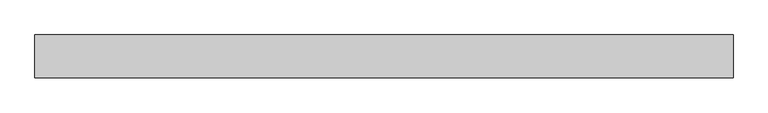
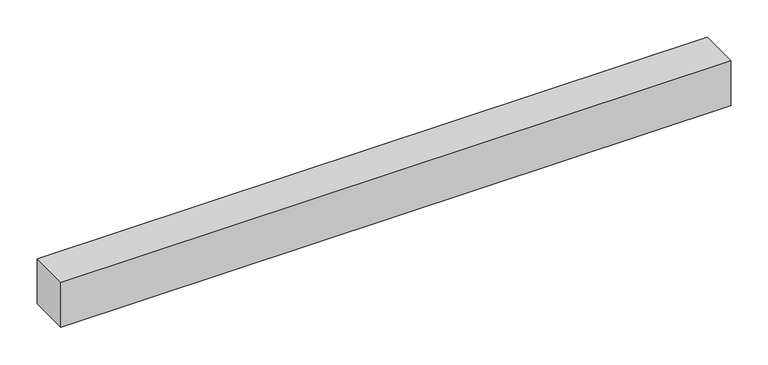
"""IFC4 building model written with IfcOpenShell, lengths in millimetres: light fixture geometry, LF_ОП_ТЛ : ДСП52_34_171_34Вт."""

from ifc_helpers import new_model, si_unit, frame, origin, place, context, project, spatial, polyline, outline, extrude, source, transform, mapped, element, save


def light_fixture_a1cd45f6(model_context):
    return source(origin(), model_context, "Body", "SweptSolid", [
        extrude(outline(polyline([(520.0, 32.0), (520.0, -32.0), (-520.0, -32.0), (-520.0, 32.0), (520.0, 32.0)])), frame((0.0, 0.0, -74.0), z_axis=(0.0, 0.0, 1.0), x_axis=(1.0, 0.0, 0.0)), (0.0, 0.0, 1.0), 74.0),
        extrude(outline(polyline([(510.0, 22.0), (510.0, -22.0), (-510.0, -22.0), (-510.0, 22.0), (510.0, 22.0)])), frame((0.0, 0.0, -74.7), z_axis=(0.0, 0.0, 1.0), x_axis=(1.0, 0.0, 0.0)), (0.0, 0.0, 1.0), 44.7),
    ])


if __name__ == "__main__":
    model = new_model("IFC4")
    model_context = context("Model", 3, world=origin())
    ifc_project = project(units=[si_unit("LENGTHUNIT", "METRE", prefix="MILLI")], contexts=[model_context])
    site = spatial("IfcSite", under=ifc_project)
    building = spatial("IfcBuilding", under=site)
    placement = place(None, origin())
    light_fixture_shape = light_fixture_a1cd45f6(model_context)
    element("IfcLightFixture", 1, ObjectType="LF_ОП_ТЛ : ДСП52_34_171_34Вт", at=placement, inside=building, context=model_context, shape_type="MappedRepresentation", body=[
        mapped(light_fixture_shape, transform((0.0, 0.0, 0.0), x_axis=(1.0, 0.0, 0.0), y_axis=(0.0, 1.0, 0.0), z_axis=(0.0, 0.0, 1.0))),
    ])
    save(model, "model.ifc")
